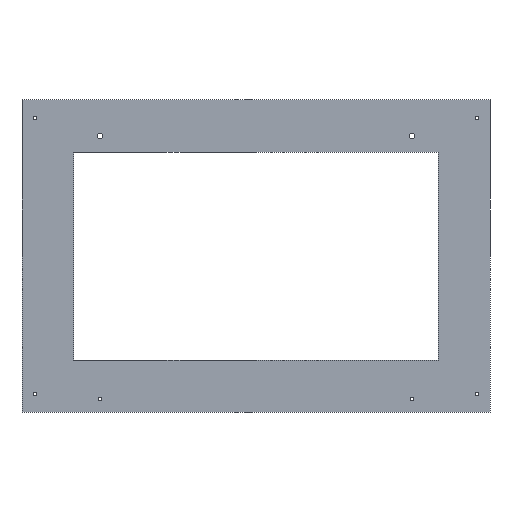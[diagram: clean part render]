
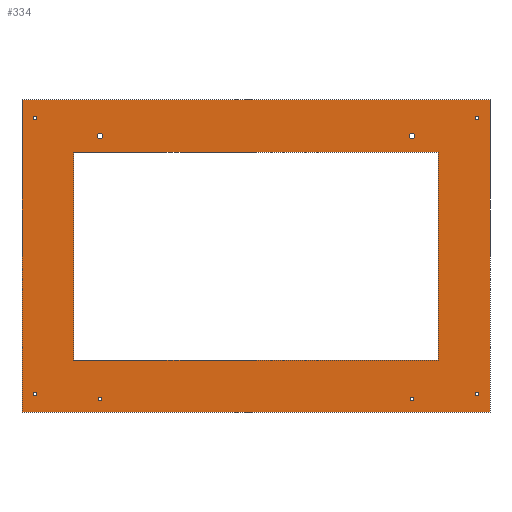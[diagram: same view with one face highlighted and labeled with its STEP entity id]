
A CAD part, front view. The second image highlights one B-rep face of the part: STEP entity #334.
In plain terms, the highlighted planar face has unit normal (0, -1, 0).
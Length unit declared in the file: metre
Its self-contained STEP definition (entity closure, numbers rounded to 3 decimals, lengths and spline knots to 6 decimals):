
#20=LINE('',#505,#44);
#21=LINE('',#508,#45);
#22=LINE('',#510,#46);
#23=LINE('',#512,#47);
#24=LINE('',#513,#48);
#25=LINE('',#516,#49);
#26=LINE('',#518,#50);
#27=LINE('',#520,#51);
#44=VECTOR('',#413,1.);
#45=VECTOR('',#414,1.);
#46=VECTOR('',#415,1.);
#47=VECTOR('',#416,1.);
#48=VECTOR('',#417,1.);
#49=VECTOR('',#418,1.);
#50=VECTOR('',#419,1.);
#51=VECTOR('',#420,1.);
#68=ORIENTED_EDGE('',*,*,#148,.T.);
#69=ORIENTED_EDGE('',*,*,#149,.T.);
#70=ORIENTED_EDGE('',*,*,#150,.F.);
#71=ORIENTED_EDGE('',*,*,#151,.F.);
#72=ORIENTED_EDGE('',*,*,#152,.T.);
#73=ORIENTED_EDGE('',*,*,#153,.F.);
#74=ORIENTED_EDGE('',*,*,#154,.T.);
#75=ORIENTED_EDGE('',*,*,#155,.T.);
#76=ORIENTED_EDGE('',*,*,#156,.F.);
#77=ORIENTED_EDGE('',*,*,#157,.F.);
#78=ORIENTED_EDGE('',*,*,#158,.T.);
#79=ORIENTED_EDGE('',*,*,#159,.T.);
#80=ORIENTED_EDGE('',*,*,#160,.F.);
#81=ORIENTED_EDGE('',*,*,#161,.F.);
#82=ORIENTED_EDGE('',*,*,#162,.T.);
#83=ORIENTED_EDGE('',*,*,#163,.F.);
#148=EDGE_CURVE('',#188,#188,#220,.F.);
#149=EDGE_CURVE('',#189,#189,#221,.F.);
#150=EDGE_CURVE('',#190,#190,#222,.T.);
#151=EDGE_CURVE('',#191,#191,#223,.T.);
#152=EDGE_CURVE('',#192,#192,#224,.T.);
#153=EDGE_CURVE('',#193,#194,#20,.T.);
#154=EDGE_CURVE('',#193,#195,#21,.T.);
#155=EDGE_CURVE('',#195,#196,#22,.T.);
#156=EDGE_CURVE('',#194,#196,#23,.T.);
#157=EDGE_CURVE('',#197,#198,#24,.T.);
#158=EDGE_CURVE('',#197,#199,#25,.T.);
#159=EDGE_CURVE('',#199,#200,#26,.T.);
#160=EDGE_CURVE('',#198,#200,#27,.T.);
#161=EDGE_CURVE('',#201,#201,#225,.T.);
#162=EDGE_CURVE('',#202,#202,#226,.F.);
#163=EDGE_CURVE('',#203,#203,#227,.T.);
#188=VERTEX_POINT('',#496);
#189=VERTEX_POINT('',#498);
#190=VERTEX_POINT('',#500);
#191=VERTEX_POINT('',#502);
#192=VERTEX_POINT('',#504);
#193=VERTEX_POINT('',#506);
#194=VERTEX_POINT('',#507);
#195=VERTEX_POINT('',#509);
#196=VERTEX_POINT('',#511);
#197=VERTEX_POINT('',#514);
#198=VERTEX_POINT('',#515);
#199=VERTEX_POINT('',#517);
#200=VERTEX_POINT('',#519);
#201=VERTEX_POINT('',#522);
#202=VERTEX_POINT('',#524);
#203=VERTEX_POINT('',#526);
#220=CIRCLE('',#366,0.002605);
#221=CIRCLE('',#367,0.001613);
#222=CIRCLE('',#368,0.001613);
#223=CIRCLE('',#369,0.001613);
#224=CIRCLE('',#370,0.001613);
#225=CIRCLE('',#371,0.001613);
#226=CIRCLE('',#372,0.001613);
#227=CIRCLE('',#373,0.002605);
#236=EDGE_LOOP('',(#68));
#237=EDGE_LOOP('',(#69));
#238=EDGE_LOOP('',(#70));
#239=EDGE_LOOP('',(#71));
#240=EDGE_LOOP('',(#72));
#241=EDGE_LOOP('',(#73,#74,#75,#76));
#242=EDGE_LOOP('',(#77,#78,#79,#80));
#243=EDGE_LOOP('',(#81));
#244=EDGE_LOOP('',(#82));
#245=EDGE_LOOP('',(#83));
#280=FACE_BOUND('',#236,.T.);
#281=FACE_BOUND('',#237,.T.);
#282=FACE_BOUND('',#238,.T.);
#283=FACE_BOUND('',#239,.T.);
#284=FACE_BOUND('',#240,.T.);
#285=FACE_BOUND('',#241,.T.);
#286=FACE_BOUND('',#242,.T.);
#287=FACE_BOUND('',#243,.T.);
#288=FACE_BOUND('',#244,.T.);
#289=FACE_BOUND('',#245,.T.);
#324=PLANE('',#365);
#334=ADVANCED_FACE('',(#280,#281,#282,#283,#284,#285,#286,#287,#288,#289),
#324,.T.);
#365=AXIS2_PLACEMENT_3D('',#494,#401,#402);
#366=AXIS2_PLACEMENT_3D('',#495,#403,#404);
#367=AXIS2_PLACEMENT_3D('',#497,#405,#406);
#368=AXIS2_PLACEMENT_3D('',#499,#407,#408);
#369=AXIS2_PLACEMENT_3D('',#501,#409,#410);
#370=AXIS2_PLACEMENT_3D('',#503,#411,#412);
#371=AXIS2_PLACEMENT_3D('',#521,#421,#422);
#372=AXIS2_PLACEMENT_3D('',#523,#423,#424);
#373=AXIS2_PLACEMENT_3D('',#525,#425,#426);
#401=DIRECTION('',(0.,-1.,0.));
#402=DIRECTION('',(1.,0.,0.));
#403=DIRECTION('',(0.,-1.,0.));
#404=DIRECTION('',(0.,0.,-1.));
#405=DIRECTION('',(0.,-1.,0.));
#406=DIRECTION('',(0.,0.,-1.));
#407=DIRECTION('',(0.,-1.,0.));
#408=DIRECTION('',(0.,0.,-1.));
#409=DIRECTION('',(0.,-1.,0.));
#410=DIRECTION('',(0.,0.,-1.));
#411=DIRECTION('',(0.,1.,0.));
#412=DIRECTION('',(0.,0.,-1.));
#413=DIRECTION('',(0.,0.,-1.));
#414=DIRECTION('',(1.,0.,0.));
#415=DIRECTION('',(0.,0.,-1.));
#416=DIRECTION('',(1.,0.,0.));
#417=DIRECTION('',(1.,0.,0.));
#418=DIRECTION('',(0.,0.,-1.));
#419=DIRECTION('',(1.,0.,0.));
#420=DIRECTION('',(0.,0.,-1.));
#421=DIRECTION('',(0.,-1.,0.));
#422=DIRECTION('',(0.,0.,-1.));
#423=DIRECTION('',(0.,-1.,0.));
#424=DIRECTION('',(0.,0.,-1.));
#425=DIRECTION('',(0.,-1.,0.));
#426=DIRECTION('',(0.,0.,-1.));
#494=CARTESIAN_POINT('',(0.,-0.00635,0.));
#495=CARTESIAN_POINT('',(0.1524,-0.00635,0.117246));
#496=CARTESIAN_POINT('',(0.1524,-0.00635,0.114641));
#497=CARTESIAN_POINT('',(0.2159,-0.00635,-0.134938));
#498=CARTESIAN_POINT('',(0.2159,-0.00635,-0.13655));
#499=CARTESIAN_POINT('',(-0.2159,-0.00635,-0.134938));
#500=CARTESIAN_POINT('',(-0.2159,-0.00635,-0.13655));
#501=CARTESIAN_POINT('',(0.2159,-0.00635,0.134938));
#502=CARTESIAN_POINT('',(0.2159,-0.00635,0.133325));
#503=CARTESIAN_POINT('',(0.1524,-0.00635,-0.1397));
#504=CARTESIAN_POINT('',(0.1524,-0.00635,-0.141313));
#505=CARTESIAN_POINT('',(-0.1778,-0.00635,0.));
#506=CARTESIAN_POINT('',(-0.1778,-0.00635,0.1016));
#507=CARTESIAN_POINT('',(-0.1778,-0.00635,-0.1016));
#508=CARTESIAN_POINT('',(0.,-0.00635,0.1016));
#509=CARTESIAN_POINT('',(0.1778,-0.00635,0.1016));
#510=CARTESIAN_POINT('',(0.1778,-0.00635,0.));
#511=CARTESIAN_POINT('',(0.1778,-0.00635,-0.1016));
#512=CARTESIAN_POINT('',(0.,-0.00635,-0.1016));
#513=CARTESIAN_POINT('',(0.,-0.00635,0.1524));
#514=CARTESIAN_POINT('',(-0.2286,-0.00635,0.1524));
#515=CARTESIAN_POINT('',(0.2286,-0.00635,0.1524));
#516=CARTESIAN_POINT('',(-0.2286,-0.00635,0.));
#517=CARTESIAN_POINT('',(-0.2286,-0.00635,-0.1524));
#518=CARTESIAN_POINT('',(0.,-0.00635,-0.1524));
#519=CARTESIAN_POINT('',(0.2286,-0.00635,-0.1524));
#520=CARTESIAN_POINT('',(0.2286,-0.00635,0.));
#521=CARTESIAN_POINT('',(-0.1524,-0.00635,-0.1397));
#522=CARTESIAN_POINT('',(-0.1524,-0.00635,-0.141313));
#523=CARTESIAN_POINT('',(-0.2159,-0.00635,0.134938));
#524=CARTESIAN_POINT('',(-0.2159,-0.00635,0.133325));
#525=CARTESIAN_POINT('',(-0.1524,-0.00635,0.117246));
#526=CARTESIAN_POINT('',(-0.1524,-0.00635,0.114641));
